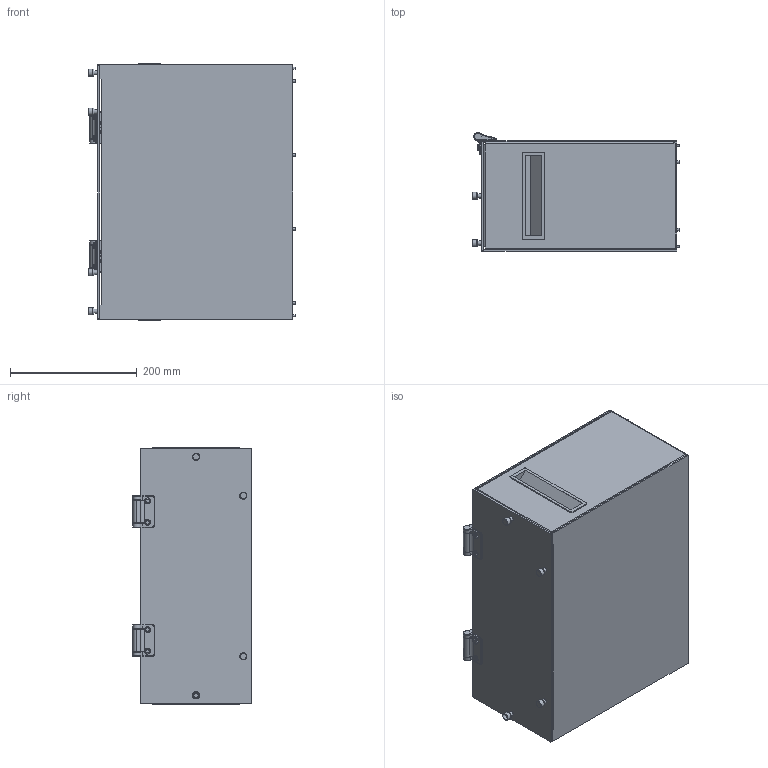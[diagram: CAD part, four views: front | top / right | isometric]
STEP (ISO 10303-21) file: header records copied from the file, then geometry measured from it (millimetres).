
FILE_DESCRIPTION((''),'2;1');
FILE_NAME('C:\old_Drawings\shrinkwrapped website .stp files\561516-STP.stp','2011-06-24T08:55:54',('GaryRobinson'),(''),'Autodesk Inventor 2011','Autodesk Inventor 2011','');
FILE_SCHEMA(('CONFIG_CONTROL_DESIGN'));
Length unit declared in the file: inch
Products named in the file (1): 561516-STP
Bounding box: 328.16 x 187.33 x 406.04 mm (x, y, z)
Surface area: 923892.4 mm2 (no closed solid volume)
Topology: 0 solids, 92 shells, 287 faces, 1136 edges, 895 vertices
Faces by surface type: plane 143, cylinder 108, torus 22, bspline 14
Full cylindrical faces by diameter (mm): 3.505 x14, 5.74 x8, 6.858 x4, 7.112 x8, 9.473 x8, 11.43 x4
Entity records: 15082 total; most frequent: CARTESIAN_POINT 5308, DIRECTION 1897, ORIENTED_EDGE 1392, EDGE_CURVE 1070, VERTEX_POINT 891, AXIS2_PLACEMENT_3D 674, VECTOR 549, LINE 549
